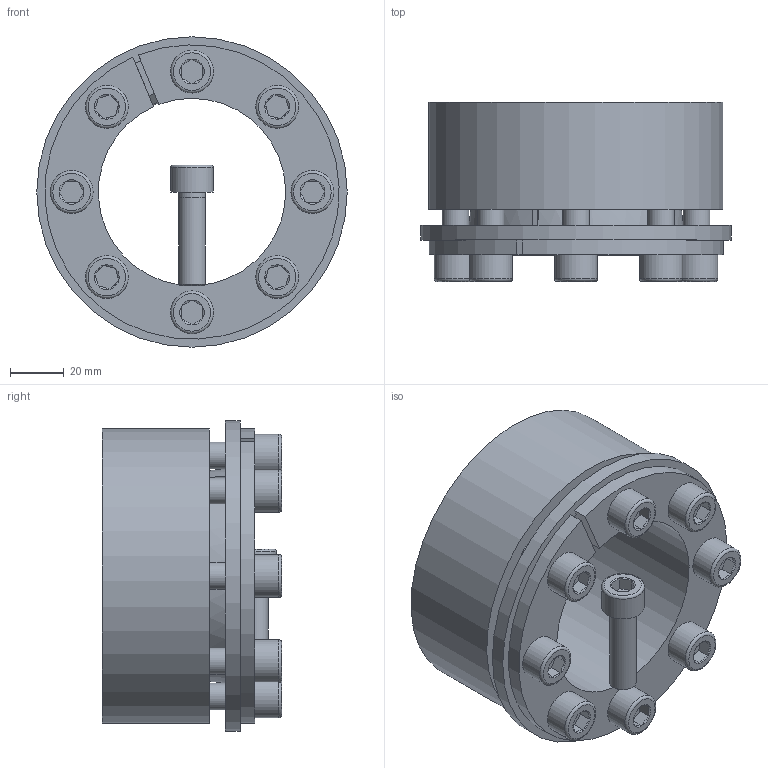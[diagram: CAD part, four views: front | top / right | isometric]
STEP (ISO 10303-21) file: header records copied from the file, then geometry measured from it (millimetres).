
FILE_DESCRIPTION( ( 'Unknown' ), '1' );
FILE_NAME( 'C:/Dokumente und Einstellungen/Sven/Desktop/homepage/cad - homepage/KBS71/KBS 71 - 70 x 110.stp', 'Unknown', ( 'Unknown' ), ( 'Unknown' ), 'XStep 1.0', 'Unknown', ' ' );
FILE_SCHEMA( ( 'automotive_design' ) );
Length unit declared in the file: millimetre
Products named in the file (3): Assem1; KBS 71 - 70 x 110; ISO EN DIN 4762 M10x35
Bounding box: 116 x 67 x 116 mm (x, y, z)
Volume: 571676.6 mm3; surface area: 152463.6 mm2
Topology: 11 solids, 11 shells, 305 faces, 659 edges, 394 vertices
Faces by surface type: plane 140, cylinder 76, cone 71, torus 18
Full cylindrical faces by diameter (mm): 9 x9, 10 x50, 16 x9, 116 x2
Entity records: 2318 total; most frequent: CARTESIAN_POINT 365, DIRECTION 352, ORIENTED_EDGE 272, AXIS2_PLACEMENT_3D 151, EDGE_CURVE 136, EDGE_LOOP 122, VERTEX_POINT 96, FACE_OUTER_BOUND 88
